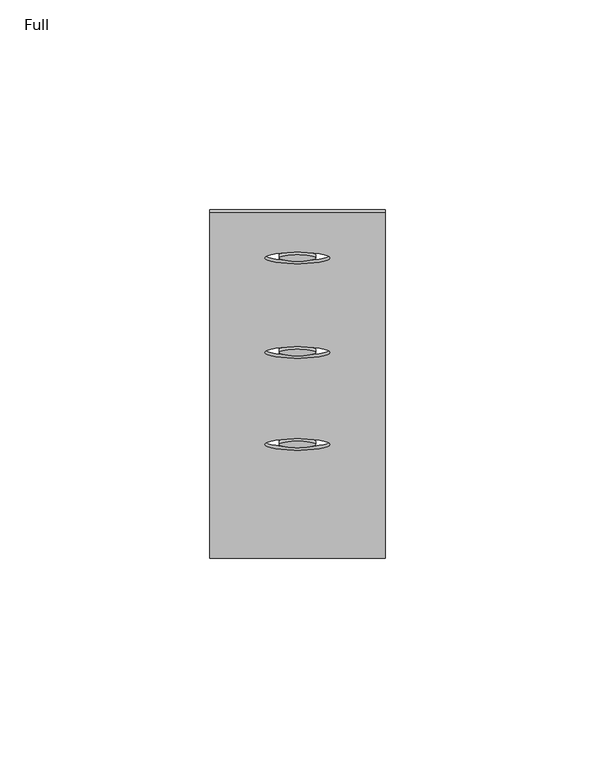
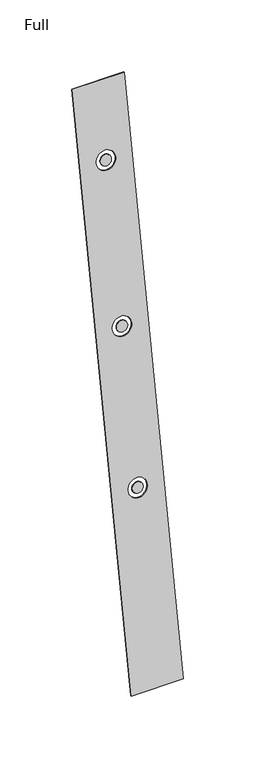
"""IFC4 building model written with IfcOpenShell, lengths in millimetres: furniture geometry, Steelcase Turnstone - Bivi - Table - Leg Cover : Full."""

from ifc_helpers import new_model, si_unit, point, frame, frame_2d, origin, place, context, project, spatial, polyline, circle_curve, trimmed, segment, composite_curve, outline, extrude, source, transform, mapped, element, save


def full_2cae2f0a(model_context):
    return source(origin(), model_context, "Body", "SweptSolid", [
        extrude(outline(polyline([(41.7834961, 0.0), (41.7834961, -473.7102312), (0.0, -473.7102312), (0.0, 0.0), (41.7834961, 0.0)]), holes=[composite_curve([segment(trimmed(circle_curve(frame_2d((20.8958691, -61.9682185)), 7.7534661), [point((13.142403, -61.9682185))], [point((28.6493353, -61.9682185))], True, "CARTESIAN"), True, "CONTINUOUS"), segment(trimmed(circle_curve(frame_2d((20.8958691, -61.9682185)), 7.7534661), [point((28.6493353, -61.9682185))], [point((13.142403, -61.9682185))], True, "CARTESIAN"), True, "CONTINUOUS")], self_intersect=False), composite_curve([segment(trimmed(circle_curve(frame_2d((20.8958905, -191.5821275)), 7.7534661), [point((13.1424244, -191.5821275))], [point((28.6493566, -191.5821275))], True, "CARTESIAN"), True, "CONTINUOUS"), segment(trimmed(circle_curve(frame_2d((20.8958905, -191.5821275)), 7.7534661), [point((28.6493566, -191.5821275))], [point((13.1424244, -191.5821275))], True, "CARTESIAN"), True, "CONTINUOUS")], self_intersect=False), composite_curve([segment(trimmed(circle_curve(frame_2d((20.8958948, -317.5829273)), 7.7534661), [point((13.1424287, -317.5829273))], [point((28.6493609, -317.5829273))], True, "CARTESIAN"), True, "CONTINUOUS"), segment(trimmed(circle_curve(frame_2d((20.8958948, -317.5829273)), 7.7534661), [point((28.6493609, -317.5829273))], [point((13.1424287, -317.5829273))], True, "CARTESIAN"), True, "CONTINUOUS")], self_intersect=False)]), frame((3.6659394, 117.2062601, 490.2236317), z_axis=(0.0, -0.9848113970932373, 0.17362750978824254), x_axis=(1.0, 0.0, 0.0)), (0.0, 0.0, 1.0), 0.7594233),
        extrude(outline(composite_curve([segment(trimmed(circle_curve(frame_2d((20.8958691, -61.9682185)), 4.3853305), [point((16.5105386, -61.9682185))], [point((25.2811997, -61.9682185))], False, "CARTESIAN"), True, "CONTINUOUS"), segment(trimmed(circle_curve(frame_2d((20.8958691, -61.9682185)), 4.3853305), [point((25.2811997, -61.9682185))], [point((16.5105386, -61.9682185))], False, "CARTESIAN"), True, "CONTINUOUS")], self_intersect=False)), frame((3.6659394, 117.2062601, 490.2236317), z_axis=(0.0, -0.9848113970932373, 0.17362750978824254), x_axis=(1.0, 0.0, 0.0)), (0.0, 0.0, 1.0), 0.7594233),
        extrude(outline(composite_curve([segment(trimmed(circle_curve(frame_2d((20.8958905, -191.5821275)), 4.3853305), [point((16.51056, -191.5821275))], [point((25.281221, -191.5821275))], False, "CARTESIAN"), True, "CONTINUOUS"), segment(trimmed(circle_curve(frame_2d((20.8958905, -191.5821275)), 4.3853305), [point((25.281221, -191.5821275))], [point((16.51056, -191.5821275))], False, "CARTESIAN"), True, "CONTINUOUS")], self_intersect=False)), frame((3.6659394, 117.2062601, 490.2236317), z_axis=(0.0, -0.9848113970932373, 0.17362750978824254), x_axis=(1.0, 0.0, 0.0)), (0.0, 0.0, 1.0), 0.7594233),
        extrude(outline(composite_curve([segment(trimmed(circle_curve(frame_2d((20.8958948, -317.5829273)), 4.3853305), [point((16.5105643, -317.5829273))], [point((25.2812253, -317.5829273))], False, "CARTESIAN"), True, "CONTINUOUS"), segment(trimmed(circle_curve(frame_2d((20.8958948, -317.5829273)), 4.3853305), [point((25.2812253, -317.5829273))], [point((16.5105643, -317.5829273))], False, "CARTESIAN"), True, "CONTINUOUS")], self_intersect=False)), frame((3.6659394, 117.2062601, 490.2236317), z_axis=(0.0, -0.9848113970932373, 0.17362750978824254), x_axis=(1.0, 0.0, 0.0)), (0.0, 0.0, 1.0), 0.7594233),
    ])


if __name__ == "__main__":
    model = new_model("IFC4")
    model_context = context("Model", 3, world=origin())
    ifc_project = project(units=[si_unit("LENGTHUNIT", "METRE", prefix="MILLI")], contexts=[model_context])
    site = spatial("IfcSite", under=ifc_project)
    building = spatial("IfcBuilding", under=site)
    placement = place(None, origin())
    full_shape = full_2cae2f0a(model_context)
    element("IfcFurniture", 1, ObjectType="Steelcase Turnstone - Bivi - Table - Leg Cover : Full", at=placement, inside=building, context=model_context, shape_type="MappedRepresentation", body=[
        mapped(full_shape, transform((0.0, 0.0, 0.0), x_axis=(1.0, 0.0, 0.0), y_axis=(0.0, 1.0, 0.0), z_axis=(0.0, 0.0, 1.0))),
    ])
    save(model, "model.ifc")
